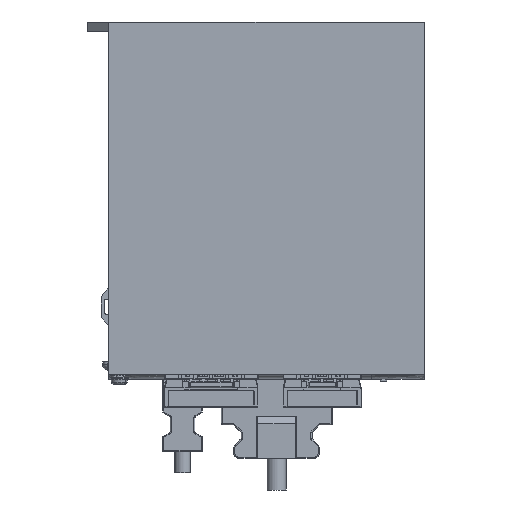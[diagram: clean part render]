
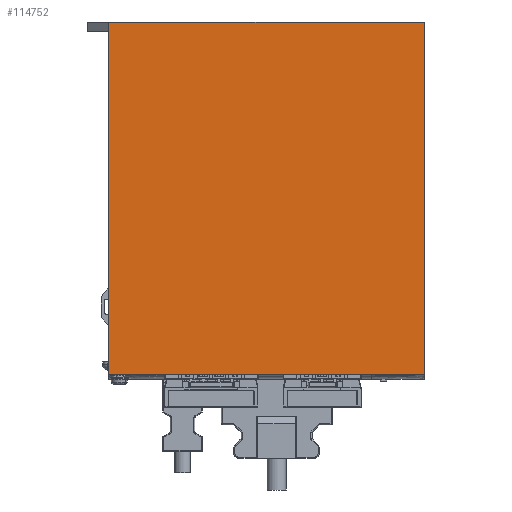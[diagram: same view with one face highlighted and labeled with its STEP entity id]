
A CAD part, front view. The second image highlights one B-rep face of the part: STEP entity #114752.
In plain terms, the highlighted planar face has unit normal (0, -1, 0).
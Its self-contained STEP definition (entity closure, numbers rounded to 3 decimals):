
#1285 = LINE ( 'NONE', #20149, #59611 ) ;
#7647 = DIRECTION ( 'NONE',  ( 0., 0., -1. ) ) ;
#16647 = EDGE_CURVE ( 'NONE', #40828, #128668, #78488, .T. ) ;
#20149 = CARTESIAN_POINT ( 'NONE',  ( -150., 0., 88. ) ) ;
#21961 = ORIENTED_EDGE ( 'NONE', *, *, #49901, .F. ) ;
#27042 = EDGE_LOOP ( 'NONE', ( #50341, #21961, #57362, #60142 ) ) ;
#31706 = CARTESIAN_POINT ( 'NONE',  ( 0., 0., -79.5 ) ) ;
#35687 = EDGE_CURVE ( 'NONE', #35793, #40828, #89582, .T. ) ;
#35793 = VERTEX_POINT ( 'NONE', #110751 ) ;
#40522 = VECTOR ( 'NONE', #105281, 1000. ) ;
#40828 = VERTEX_POINT ( 'NONE', #148500 ) ;
#47688 = CARTESIAN_POINT ( 'NONE',  ( 0., 0., -79.5 ) ) ;
#49901 = EDGE_CURVE ( 'NONE', #35793, #103494, #1285, .T. ) ;
#50341 = ORIENTED_EDGE ( 'NONE', *, *, #90931, .F. ) ;
#54034 = DIRECTION ( 'NONE',  ( 0., -1., 0. ) ) ;
#57362 = ORIENTED_EDGE ( 'NONE', *, *, #35687, .T. ) ;
#59611 = VECTOR ( 'NONE', #125629, 1000. ) ;
#60142 = ORIENTED_EDGE ( 'NONE', *, *, #16647, .T. ) ;
#74556 = DIRECTION ( 'NONE',  ( 0., 0., -1. ) ) ;
#78488 = LINE ( 'NONE', #132818, #107667 ) ;
#84680 = CARTESIAN_POINT ( 'NONE',  ( 0., 0., 88. ) ) ;
#89243 = CARTESIAN_POINT ( 'NONE',  ( -150., 0., -79.5 ) ) ;
#89582 = LINE ( 'NONE', #110272, #149844 ) ;
#90931 = EDGE_CURVE ( 'NONE', #103494, #128668, #149957, .T. ) ;
#102971 = AXIS2_PLACEMENT_3D ( 'NONE', #89243, #54034, #7647 ) ;
#103494 = VERTEX_POINT ( 'NONE', #84680 ) ;
#105281 = DIRECTION ( 'NONE',  ( 0., 0., -1. ) ) ;
#107667 = VECTOR ( 'NONE', #134309, 1000. ) ;
#110272 = CARTESIAN_POINT ( 'NONE',  ( -150., 0., -79.5 ) ) ;
#110751 = CARTESIAN_POINT ( 'NONE',  ( -150., 0., 88. ) ) ;
#114752 = ADVANCED_FACE ( 'NONE', ( #139636 ), #146331, .T. ) ;
#125629 = DIRECTION ( 'NONE',  ( 1., 0., 0. ) ) ;
#128668 = VERTEX_POINT ( 'NONE', #31706 ) ;
#132818 = CARTESIAN_POINT ( 'NONE',  ( -150., 0., -79.5 ) ) ;
#134309 = DIRECTION ( 'NONE',  ( 1., 0., 0. ) ) ;
#139636 = FACE_OUTER_BOUND ( 'NONE', #27042, .T. ) ;
#146331 = PLANE ( 'NONE',  #102971 ) ;
#148500 = CARTESIAN_POINT ( 'NONE',  ( -150., 0., -79.5 ) ) ;
#149844 = VECTOR ( 'NONE', #74556, 1000. ) ;
#149957 = LINE ( 'NONE', #47688, #40522 ) ;
